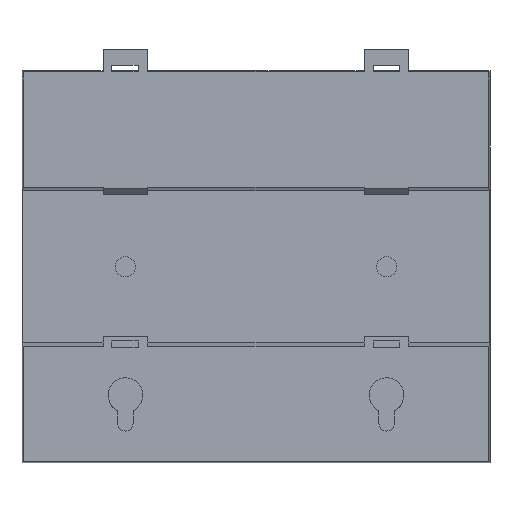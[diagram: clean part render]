
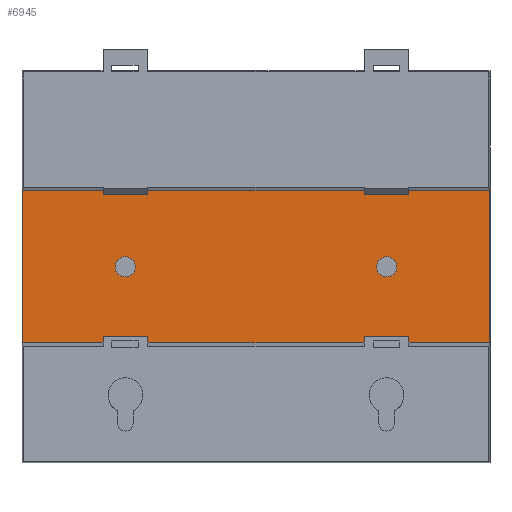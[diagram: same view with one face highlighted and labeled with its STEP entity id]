
A CAD part, front view. The second image highlights one B-rep face of the part: STEP entity #6945.
In plain terms, the highlighted planar face has unit normal (0, -1, 0).
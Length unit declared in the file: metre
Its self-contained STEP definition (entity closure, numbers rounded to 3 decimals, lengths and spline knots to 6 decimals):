
#596=CIRCLE('',#8255,0.0023);
#597=CIRCLE('',#8256,0.0023);
#774=ORIENTED_EDGE('',*,*,#2687,.T.);
#775=ORIENTED_EDGE('',*,*,#2704,.F.);
#776=ORIENTED_EDGE('',*,*,#2674,.F.);
#777=ORIENTED_EDGE('',*,*,#2691,.T.);
#778=ORIENTED_EDGE('',*,*,#2705,.F.);
#779=ORIENTED_EDGE('',*,*,#2706,.F.);
#2674=EDGE_CURVE('',#3648,#3649,#4326,.F.);
#2687=EDGE_CURVE('',#3652,#3653,#4339,.T.);
#2691=EDGE_CURVE('',#3648,#3652,#4343,.T.);
#2704=EDGE_CURVE('',#3649,#3653,#4356,.T.);
#2705=EDGE_CURVE('',#3664,#3664,#596,.F.);
#2706=EDGE_CURVE('',#3665,#3665,#597,.F.);
#3648=VERTEX_POINT('',#10267);
#3649=VERTEX_POINT('',#10269);
#3652=VERTEX_POINT('',#10284);
#3653=VERTEX_POINT('',#10287);
#3664=VERTEX_POINT('',#10321);
#3665=VERTEX_POINT('',#10323);
#4326=LINE('',#10268,#5002);
#4339=LINE('',#10288,#5015);
#4343=LINE('',#10296,#5019);
#4356=LINE('',#10318,#5032);
#5002=VECTOR('',#8744,1.);
#5015=VECTOR('',#8761,1.);
#5019=VECTOR('',#8769,1.);
#5032=VECTOR('',#8784,1.);
#5603=EDGE_LOOP('',(#774,#775,#776,#777));
#5604=EDGE_LOOP('',(#778));
#5605=EDGE_LOOP('',(#779));
#6143=FACE_BOUND('',#5603,.T.);
#6144=FACE_BOUND('',#5604,.T.);
#6145=FACE_BOUND('',#5605,.T.);
#6677=PLANE('',#8254);
#6945=ADVANCED_FACE('',(#6143,#6144,#6145),#6677,.F.);
#8254=AXIS2_PLACEMENT_3D('',#10319,#8785,#8786);
#8255=AXIS2_PLACEMENT_3D('',#10320,#8787,#8788);
#8256=AXIS2_PLACEMENT_3D('',#10322,#8789,#8790);
#8744=DIRECTION('',(0.,0.,1.));
#8761=DIRECTION('',(0.,0.,-1.));
#8769=DIRECTION('',(-1.,0.,0.));
#8784=DIRECTION('',(-1.,0.,0.));
#8785=DIRECTION('',(0.,1.,0.));
#8786=DIRECTION('',(0.,0.,1.));
#8787=DIRECTION('',(0.,1.,0.));
#8788=DIRECTION('',(0.,0.,1.));
#8789=DIRECTION('',(0.,1.,0.));
#8790=DIRECTION('',(0.,0.,1.));
#10267=CARTESIAN_POINT('',(0.053579,-0.0098,0.0175));
#10268=CARTESIAN_POINT('',(0.053579,-0.0098,-0.045));
#10269=CARTESIAN_POINT('',(0.053579,-0.0098,-0.0175));
#10284=CARTESIAN_POINT('',(-0.053579,-0.0098,0.0175));
#10287=CARTESIAN_POINT('',(-0.053579,-0.0098,-0.0175));
#10288=CARTESIAN_POINT('',(-0.053579,-0.0098,-0.045));
#10296=CARTESIAN_POINT('',(0.155342,-0.0098,0.0175));
#10318=CARTESIAN_POINT('',(0.155342,-0.0098,-0.0175));
#10319=CARTESIAN_POINT('',(0.155342,-0.0098,0.));
#10320=CARTESIAN_POINT('',(-0.03,-0.0098,0.));
#10321=CARTESIAN_POINT('',(-0.03,-0.0098,0.0023));
#10322=CARTESIAN_POINT('',(0.03,-0.0098,0.));
#10323=CARTESIAN_POINT('',(0.03,-0.0098,0.0023));
